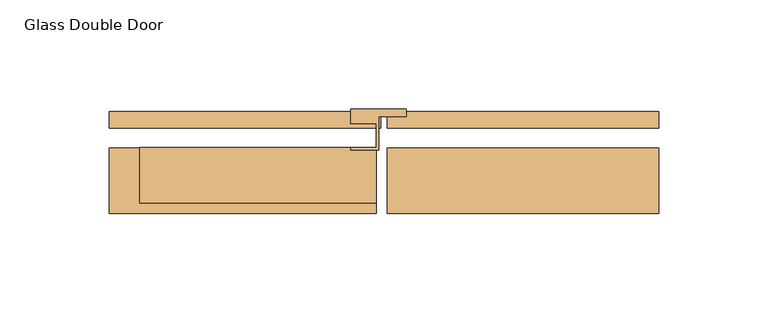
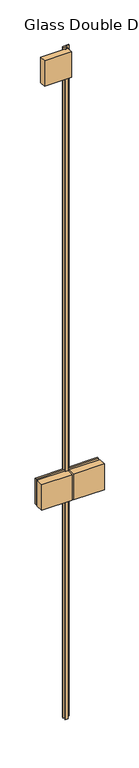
"""IFC4 building model written with IfcOpenShell, lengths in millimetres: door geometry, Door-Hinged_Glass_Full_Height-Teknion-Altos-Double : Glass Double Door."""

from ifc_helpers import new_model, si_unit, frame, origin, place, context, project, spatial, polyline, outline, extrude, source, transform, mapped, element, save


def glass_double_door_e72a0660(model_context):
    return source(origin(), model_context, "Body", "SweptSolid", [
        extrude(outline(polyline([(11.3053693, 5.7669455), (11.3053693, 2.3379455), (-1.27, 2.3379455), (-1.27, -12.9020545), (-14.0946307, -12.9020545), (-14.0946307, -11.6320545), (-2.54, -11.6320545), (-2.54, -0.8370545), (-14.0946307, -0.8370545), (-14.0946307, 5.7669455), (11.3053693, 5.7669455)])), frame((0.0, 0.0, 12.7), z_axis=(0.0, 0.0, 1.0), x_axis=(1.0, 0.0, 0.0)), (0.0, 0.0, 1.0), 2829.7886),
        extrude(outline(polyline([(-124.3748055, -2.6150545), (-124.3748055, 5.0049455), (-0.4668, 5.0049455), (-0.4668, -2.6150545), (-124.3748055, -2.6150545)])), frame((0.0, 0.0, 952.4296945), z_axis=(0.0, 0.0, 1.0), x_axis=(1.0, 0.0, 0.0)), (0.0, 0.0, 1.0), 108.090611),
        extrude(outline(polyline([(2.54, -2.6150545), (2.54, 5.0049455), (126.4480055, 5.0049455), (126.4480055, -2.6150545), (2.54, -2.6150545)])), frame((0.0, 0.0, 952.4296945), z_axis=(0.0, 0.0, 1.0), x_axis=(1.0, 0.0, 0.0)), (0.0, 0.0, 1.0), 108.090611),
        extrude(outline(polyline([(-2.54, -11.6320545), (-2.54, -41.4770545), (-124.3748055, -41.4770545), (-124.3748055, -11.6320545), (-2.54, -11.6320545)])), frame((0.0, 0.0, 952.4296945), z_axis=(0.0, 0.0, 1.0), x_axis=(1.0, 0.0, 0.0)), (0.0, 0.0, 1.0), 108.090611),
        extrude(outline(polyline([(126.4480055, -11.6320545), (126.4480055, -41.4770545), (2.54, -41.4770545), (2.54, -11.6320545), (126.4480055, -11.6320545)])), frame((0.0, 0.0, 952.4296945), z_axis=(0.0, 0.0, 1.0), x_axis=(1.0, 0.0, 0.0)), (0.0, 0.0, 1.0), 108.090611),
        extrude(outline(polyline([(-2.54, -11.6320545), (-2.54, -37.0320545), (-110.49, -37.0320545), (-110.49, -11.6320545), (-2.54, -11.6320545)])), frame((0.0, 0.0, 2734.5386), z_axis=(0.0, 0.0, 1.0), x_axis=(1.0, 0.0, 0.0)), (0.0, 0.0, 1.0), 107.95),
    ])


if __name__ == "__main__":
    model = new_model("IFC4")
    model_context = context("Model", 3, world=origin())
    ifc_project = project(units=[si_unit("LENGTHUNIT", "METRE", prefix="MILLI")], contexts=[model_context])
    site = spatial("IfcSite", under=ifc_project)
    building = spatial("IfcBuilding", under=site)
    placement = place(None, origin())
    glass_double_door_shape = glass_double_door_e72a0660(model_context)
    element("IfcDoor", 1, ObjectType="Door-Hinged_Glass_Full_Height-Teknion-Altos-Double : Glass Double Door", at=placement, inside=building, context=model_context, shape_type="MappedRepresentation", body=[
        mapped(glass_double_door_shape, transform((0.0, 0.0, 0.0), x_axis=(1.0, 0.0, 0.0), y_axis=(0.0, 1.0, 0.0), z_axis=(0.0, 0.0, 1.0))),
    ])
    save(model, "model.ifc")
